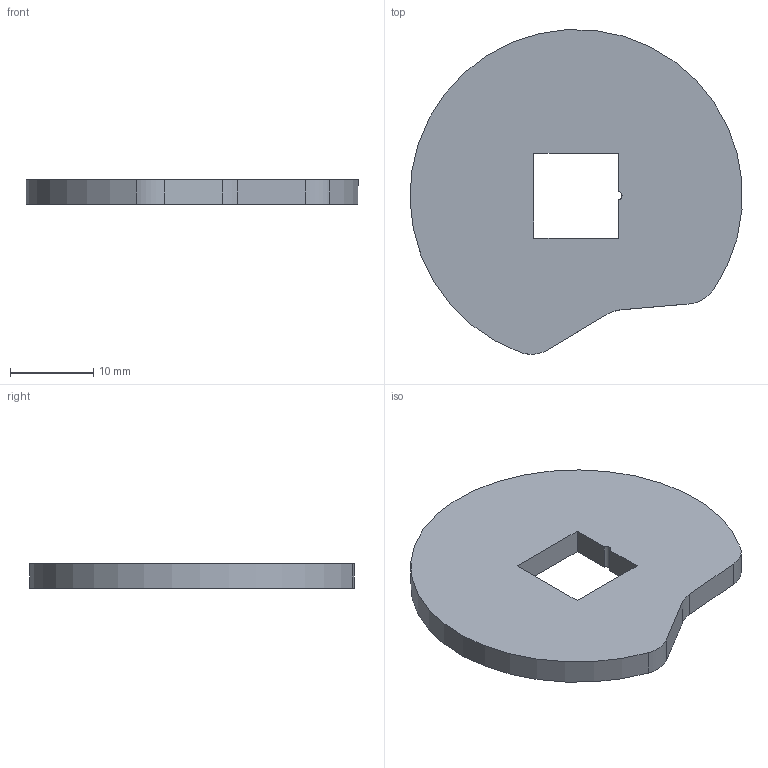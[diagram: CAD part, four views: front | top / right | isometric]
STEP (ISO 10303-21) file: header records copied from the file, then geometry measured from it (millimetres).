
FILE_DESCRIPTION(/* description */ ('STEP AP242','CAx-IF Rec.Pracs.---Representation and Presentation of Product Manufacturing Information (PMI)---4.0---2014-10-13','CAx-IF Rec.Pracs.---3D Tessellated Geometry---0.4---2014-09-14','2;1'),/* implementation_level */ '2;1');
FILE_NAME(/* name */ 'Part Studio 1 - Segment F Cam',/* time_stamp */ '2025-09-04T05:47:29Z',/* author */ (''),/* organization */ (''),/* preprocessor_version */ 'ST-DEVELOPER v20',/* originating_system */ 'ONSHAPE BY PTC INC, 1.203',/* authorisation */ ' ');
FILE_SCHEMA (('AP242_MANAGED_MODEL_BASED_3D_ENGINEERING_MIM_LF { 1 0 10303 442 1 1 4 }'));
Length unit declared in the file: metre
Products named in the file (1): Segment F Cam
Bounding box: 39.92 x 39.03 x 3 mm (x, y, z)
Volume: 3245.3 mm3; surface area: 2661 mm2
Topology: 1 solids, 1 shells, 14 faces, 36 edges, 24 vertices
Faces by surface type: plane 9, cylinder 5
Entity records: 456 total; most frequent: DIRECTION 76, CARTESIAN_POINT 75, ORIENTED_EDGE 72, EDGE_CURVE 36, LINE 26, VECTOR 26, AXIS2_PLACEMENT_3D 25, VERTEX_POINT 24
